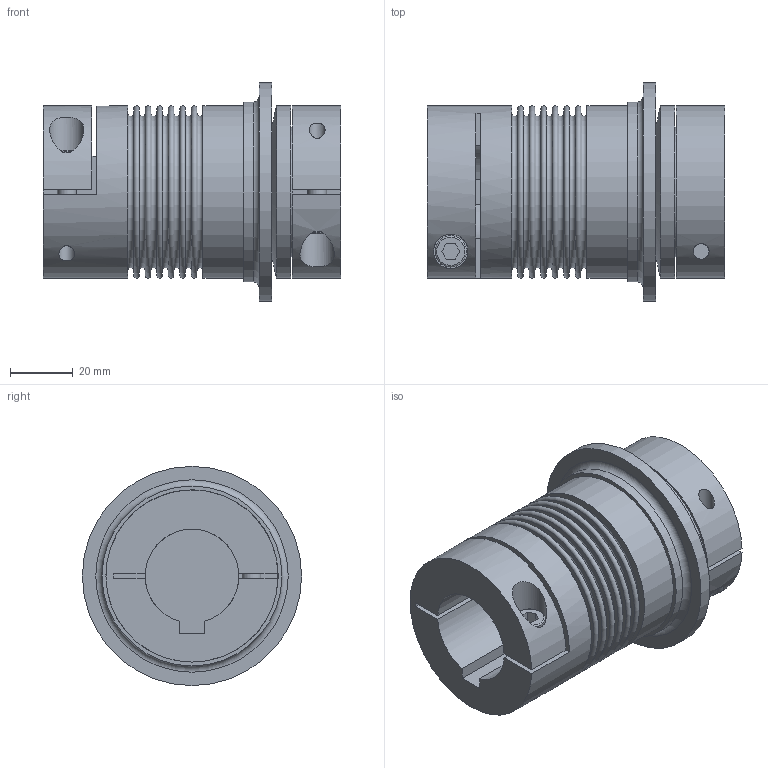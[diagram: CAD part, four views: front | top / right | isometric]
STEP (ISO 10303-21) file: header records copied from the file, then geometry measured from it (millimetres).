
FILE_DESCRIPTION(/* description */ ('STEP AP214'),/* implementation_level */ '2;1');
FILE_NAME(/* name */ 'C:\Diequa Files\DieQua Coupling\TB2\STP\TB2.30.95.F.#.#.stp',/* time_stamp */ '2019-04-26T10:42:17-05:00',/* author */ ('DiequaCAD'),/* organization */ (''),/* preprocessor_version */ 'ST-DEVELOPER v18',/* originating_system */ 'Autodesk Inventor 2020',/* authorisation */ ' ');
FILE_SCHEMA (('AUTOMOTIVE_DESIGN { 1 0 10303 214 3 1 1 }'));
Length unit declared in the file: millimetre
Products named in the file (1): TB2.30.95.F.#.#
Bounding box: 95 x 70 x 70 mm (x, y, z)
Volume: 180763.7 mm3; surface area: 43461.8 mm2
Topology: 1 solids, 1 shells, 98 faces, 232 edges, 164 vertices
Faces by surface type: plane 61, cylinder 20, torus 16, cone 1
Full cylindrical faces by diameter (mm): 5 x2, 6 x2, 6.6 x2, 10 x2, 11 x2, 41.5 x1, 55 x3, 57.5 x1, 70 x1
Entity records: 3121 total; most frequent: CARTESIAN_POINT 647, DIRECTION 547, ORIENTED_EDGE 464, EDGE_CURVE 232, AXIS2_PLACEMENT_3D 222, VERTEX_POINT 164, EDGE_LOOP 130, CIRCLE 123
